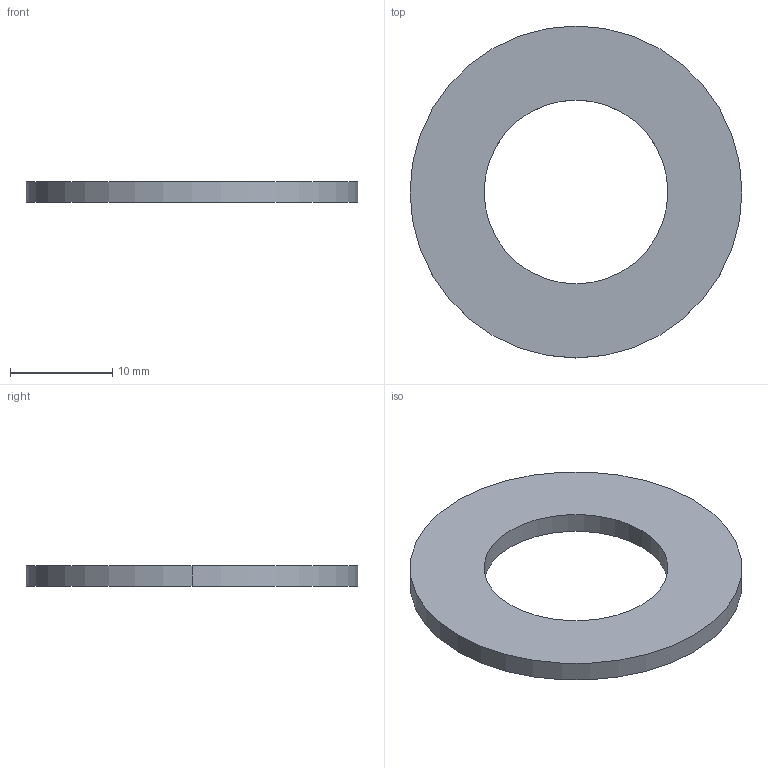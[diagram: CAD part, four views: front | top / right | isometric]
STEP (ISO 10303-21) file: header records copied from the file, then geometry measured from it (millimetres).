
FILE_DESCRIPTION (( 'STEP AP214' ), '1' );
FILE_NAME ('Ïðîêëàäêà ïîä øòóöåð çîíäà.STEP', '2025-04-10T06:03:45', ( '' ), ( '' ), 'SwSTEP 2.0', 'SolidWorks 2022', '' );
FILE_SCHEMA (( 'AUTOMOTIVE_DESIGN' ));
Length unit declared in the file: millimetre
Products named in the file (1): Прокладка под штуцер зонда
Bounding box: 32.5 x 32.5 x 2 mm (x, y, z)
Volume: 1150.2 mm3; surface area: 1467.5 mm2
Topology: 1 solids, 1 shells, 6 faces, 12 edges, 8 vertices
Faces by surface type: cylinder 4, plane 2
Entity records: 202 total; most frequent: DIRECTION 34, CARTESIAN_POINT 27, ORIENTED_EDGE 24, AXIS2_PLACEMENT_3D 15, EDGE_CURVE 12, CIRCLE 8, EDGE_LOOP 8, VERTEX_POINT 8
